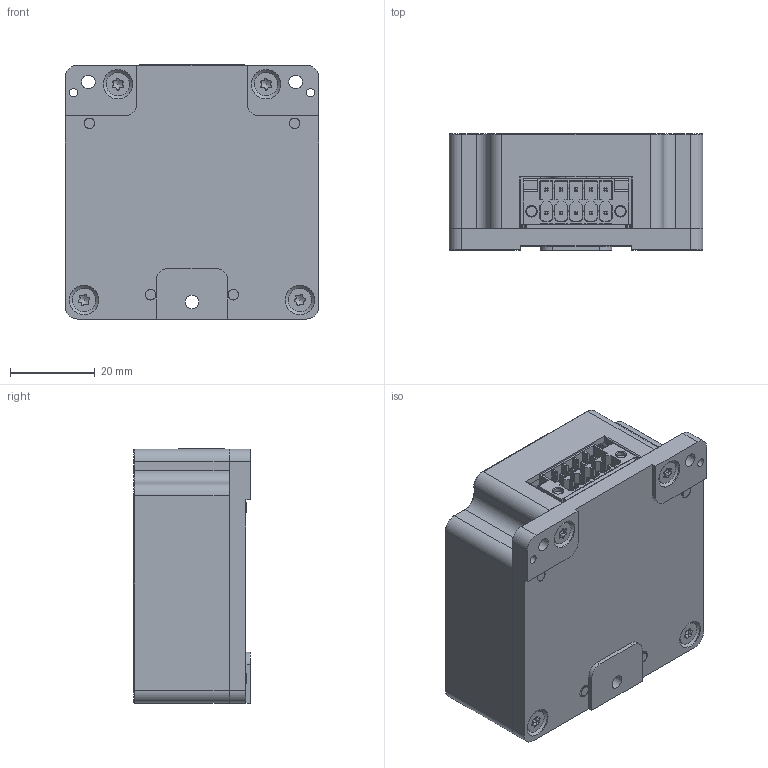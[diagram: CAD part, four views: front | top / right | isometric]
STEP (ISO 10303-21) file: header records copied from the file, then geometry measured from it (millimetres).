
FILE_DESCRIPTION (( 'STEP AP214' ), '1' );
FILE_NAME ('ËÌÀÏ.402131.051-01 Ìîäóëü ÄÓÑ CAN.STEP', '2026-05-26T12:41:28', ( 'NadezhdaS-PC' ), ( '' ), 'SwSTEP 2.0', 'SolidWorks 2026', '' );
FILE_SCHEMA (( 'AUTOMOTIVE_DESIGN' ));
Length unit declared in the file: millimetre
Products named in the file (9): ЛМАП.741428.018-01 Крышка_V3; ЛМАП.741642.005 Основание; socket head cap screw_1_din_DIN 912 M3 x 5 --- 5N; ЛМАП.754463.ХХХ 28х40 Наклейка на корпус_ДУС; ЛМАП.402131.051-01 Модуль ДУС CAN; ДУСCANv2_Variant_of_ДУСCANv2_BOARD; ДУСCANv2_Variant_of_ДУСCANv2_сайт; 15EDGRHCM-THR-3.5-10P-Footprint-1_CMP-002-00109-5; hexa csunk flathd screw_iso_ISO 14581 M3x8x8-N
Assembly tree (14 placements, depth 3):
  ЛМАП.402131.051-01 Модуль ДУС CAN
    ДУСCANv2_Variant_of_ДУСCANv2_сайт
      ДУСCANv2_Variant_of_ДУСCANv2_BOARD
      15EDGRHCM-THR-3.5-10P-Footprint-1_CMP-002-00109-5
    ЛМАП.741642.005 Основание
    ЛМАП.741428.018-01 Крышка_V3
    ЛМАП.754463.ХХХ 28х40 Наклейка на корпус_ДУС
    socket head cap screw_1_din_DIN 912 M3 x 5 --- 5N  x4
    hexa csunk flathd screw_iso_ISO 14581 M3x8x8-N  x4
Bounding box: 60 x 27.5 x 60.05 mm (x, y, z)
Volume: 26986.8 mm3; surface area: 37425.3 mm2
Topology: 13 solids, 13 shells, 2087 faces, 5742 edges, 3800 vertices
Faces by surface type: plane 1171, bspline 499, cylinder 347, cone 50, torus 20
Full cylindrical faces by diameter (mm): 0.7 x6, 1 x11, 1.4 x10, 1.5 x1, 2 x2, 2.3 x2, 2.5 x8, 3 x8, 3.2 x11, 4 x1, 5 x1, 5.5 x8, 6.94 x4
Entity records: 91470 total; most frequent: CARTESIAN_POINT 27858, ORIENTED_EDGE 10740, DIRECTION 7549, EDGE_CURVE 5370, VERTEX_POINT 3611, LINE 3609, VECTOR 3609, EDGE_LOOP 2249
